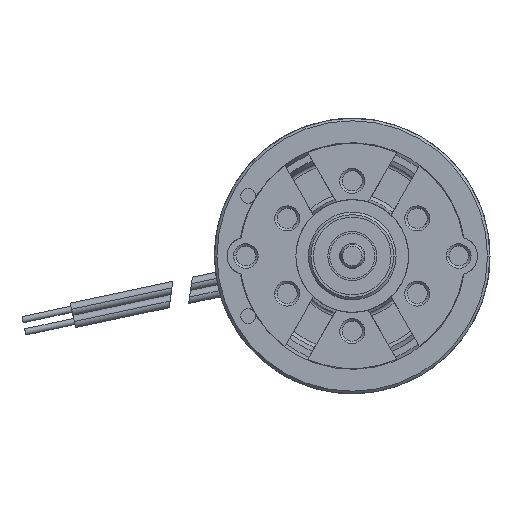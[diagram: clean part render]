
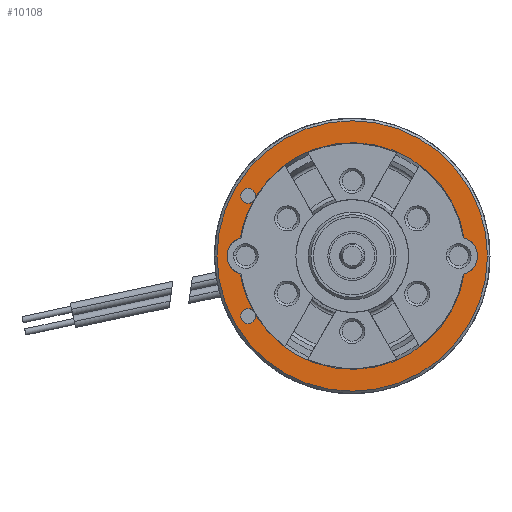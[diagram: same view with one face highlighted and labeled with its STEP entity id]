
A CAD part, left-side view. The second image highlights one B-rep face of the part: STEP entity #10108.
In plain terms, the highlighted planar face has unit normal (-1, 0, 0).
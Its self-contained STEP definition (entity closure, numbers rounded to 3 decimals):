
#2657=CARTESIAN_POINT('',(-29.2,0.,0.));
#2658=DIRECTION('',(-1.,0.,0.));
#2659=DIRECTION('',(0.,1.,0.));
#2660=AXIS2_PLACEMENT_3D('',#2657,#2658,#2659);
#2665=CARTESIAN_POINT('',(-29.2,0.,0.));
#2666=DIRECTION('',(-1.,0.,0.));
#2667=DIRECTION('',(0.,-1.,0.));
#2668=AXIS2_PLACEMENT_3D('',#2665,#2666,#2667);
#2673=CARTESIAN_POINT('',(-29.2,8.31,-4.8));
#2674=DIRECTION('',(-1.,0.,0.));
#2675=DIRECTION('',(0.,1.,0.));
#2676=AXIS2_PLACEMENT_3D('',#2673,#2674,#2675);
#2681=CARTESIAN_POINT('',(-29.2,8.31,-4.8));
#2682=DIRECTION('',(-1.,0.,0.));
#2683=DIRECTION('',(0.,-1.,0.));
#2684=AXIS2_PLACEMENT_3D('',#2681,#2682,#2683);
#2689=CARTESIAN_POINT('',(-29.2,0.,0.));
#2690=DIRECTION('',(1.,0.,0.));
#2691=DIRECTION('',(0.,-0.987,-0.159));
#2692=AXIS2_PLACEMENT_3D('',#2689,#2690,#2691);
#2697=CARTESIAN_POINT('',(-29.2,-8.5,0.));
#2698=DIRECTION('',(-1.,0.,0.));
#2699=DIRECTION('',(0.,-0.29,-0.957));
#2700=AXIS2_PLACEMENT_3D('',#2697,#2698,#2699);
#2705=CARTESIAN_POINT('',(-29.2,0.,0.));
#2706=DIRECTION('',(1.,0.,0.));
#2707=DIRECTION('',(0.,0.852,0.523));
#2708=AXIS2_PLACEMENT_3D('',#2705,#2706,#2707);
#2713=CARTESIAN_POINT('',(-29.2,8.31,4.8));
#2714=DIRECTION('',(1.,0.,0.));
#2715=DIRECTION('',(0.,-1.,0.));
#2716=AXIS2_PLACEMENT_3D('',#2713,#2714,#2715);
#2721=CARTESIAN_POINT('',(-29.2,8.31,4.8));
#2722=DIRECTION('',(1.,0.,0.));
#2723=DIRECTION('',(0.,1.,0.));
#2724=AXIS2_PLACEMENT_3D('',#2721,#2722,#2723);
#2729=CARTESIAN_POINT('',(-29.2,8.31,4.8));
#2730=DIRECTION('',(1.,0.,0.));
#2731=DIRECTION('',(0.,-0.593,-0.805));
#2732=AXIS2_PLACEMENT_3D('',#2729,#2730,#2731);
#2737=CARTESIAN_POINT('',(-29.2,0.,0.));
#2738=DIRECTION('',(1.,0.,0.));
#2739=DIRECTION('',(0.,0.987,0.159));
#2740=AXIS2_PLACEMENT_3D('',#2737,#2738,#2739);
#2745=CARTESIAN_POINT('',(-29.2,8.5,0.));
#2746=DIRECTION('',(-1.,0.,0.));
#2747=DIRECTION('',(0.,0.29,0.957));
#2748=AXIS2_PLACEMENT_3D('',#2745,#2746,#2747);
#2753=CARTESIAN_POINT('',(-29.2,0.,0.));
#2754=DIRECTION('',(1.,0.,0.));
#2755=DIRECTION('',(0.,0.879,-0.477));
#2756=AXIS2_PLACEMENT_3D('',#2753,#2754,#2755);
#2761=CARTESIAN_POINT('',(-29.2,8.31,-4.8));
#2762=DIRECTION('',(-1.,0.,0.));
#2763=DIRECTION('',(0.,-0.593,0.805));
#2764=AXIS2_PLACEMENT_3D('',#2761,#2762,#2763);
#7729=CARTESIAN_POINT('',(-29.2,8.91,4.8));
#7730=CARTESIAN_POINT('',(-29.2,7.71,4.8));
#7731=VERTEX_POINT('',#7729);
#7732=VERTEX_POINT('',#7730);
#7733=CARTESIAN_POINT('',(-29.2,7.714,4.733));
#7734=VERTEX_POINT('',#7733);
#7739=CARTESIAN_POINT('',(-29.2,8.91,-4.8));
#7740=VERTEX_POINT('',#7739);
#7741=CARTESIAN_POINT('',(-29.2,7.71,-4.8));
#7742=VERTEX_POINT('',#7741);
#7743=CARTESIAN_POINT('',(-29.2,7.714,-4.733));
#7744=VERTEX_POINT('',#7743);
#7785=CARTESIAN_POINT('',(-29.2,7.954,4.317));
#7786=VERTEX_POINT('',#7785);
#7787=CARTESIAN_POINT('',(-29.2,7.954,-4.317));
#7788=VERTEX_POINT('',#7787);
#7789=CARTESIAN_POINT('',(-29.2,-8.935,-1.435));
#7790=CARTESIAN_POINT('',(-29.2,-8.935,1.435));
#7791=VERTEX_POINT('',#7789);
#7792=VERTEX_POINT('',#7790);
#7793=CARTESIAN_POINT('',(-29.2,8.935,1.435));
#7794=CARTESIAN_POINT('',(-29.2,8.935,-1.435));
#7795=VERTEX_POINT('',#7793);
#7796=VERTEX_POINT('',#7794);
#7835=CARTESIAN_POINT('',(-29.2,10.8,0.));
#7836=CARTESIAN_POINT('',(-29.2,-10.8,0.));
#7837=VERTEX_POINT('',#7835);
#7838=VERTEX_POINT('',#7836);
#10072=CARTESIAN_POINT('',(-29.2,0.,0.));
#10073=DIRECTION('',(-1.,0.,0.));
#10074=DIRECTION('',(0.,1.,0.));
#10075=AXIS2_PLACEMENT_3D('',#10072,#10073,#10074);
#10076=PLANE('',#10075);
#10078=ORIENTED_EDGE('',*,*,#10077,.F.);
#10079=ORIENTED_EDGE('',*,*,#10055,.F.);
#10080=EDGE_LOOP('',(#10078,#10079));
#10081=FACE_OUTER_BOUND('',#10080,.F.);
#10083=ORIENTED_EDGE('',*,*,#10082,.T.);
#10085=ORIENTED_EDGE('',*,*,#10084,.T.);
#10087=ORIENTED_EDGE('',*,*,#10086,.F.);
#10089=ORIENTED_EDGE('',*,*,#10088,.T.);
#10091=ORIENTED_EDGE('',*,*,#10090,.F.);
#10093=ORIENTED_EDGE('',*,*,#10092,.F.);
#10095=ORIENTED_EDGE('',*,*,#10094,.F.);
#10097=ORIENTED_EDGE('',*,*,#10096,.F.);
#10099=ORIENTED_EDGE('',*,*,#10098,.F.);
#10101=ORIENTED_EDGE('',*,*,#10100,.T.);
#10103=ORIENTED_EDGE('',*,*,#10102,.F.);
#10105=ORIENTED_EDGE('',*,*,#10104,.T.);
#10106=EDGE_LOOP('',(#10083,#10085,#10087,#10089,#10091,#10093,#10095,#10097,
#10099,#10101,#10103,#10105));
#10107=FACE_BOUND('',#10106,.F.);
#10108=ADVANCED_FACE('',(#10081,#10107),#10076,.T.);
#2661=CIRCLE('',#2660,10.8);
#2669=CIRCLE('',#2668,10.8);
#2677=CIRCLE('',#2676,0.6);
#2685=CIRCLE('',#2684,0.6);
#2693=CIRCLE('',#2692,9.05);
#2701=CIRCLE('',#2700,1.5);
#2709=CIRCLE('',#2708,9.05);
#2717=CIRCLE('',#2716,0.6);
#2725=CIRCLE('',#2724,0.6);
#2733=CIRCLE('',#2732,0.6);
#2741=CIRCLE('',#2740,9.05);
#2749=CIRCLE('',#2748,1.5);
#2757=CIRCLE('',#2756,9.05);
#2765=CIRCLE('',#2764,0.6);
#10055=EDGE_CURVE('',#7838,#7837,#2669,.T.);
#10077=EDGE_CURVE('',#7837,#7838,#2661,.T.);
#10082=EDGE_CURVE('',#7740,#7742,#2677,.T.);
#10084=EDGE_CURVE('',#7742,#7744,#2685,.T.);
#10086=EDGE_CURVE('',#7791,#7744,#2693,.T.);
#10088=EDGE_CURVE('',#7791,#7792,#2701,.T.);
#10090=EDGE_CURVE('',#7734,#7792,#2709,.T.);
#10092=EDGE_CURVE('',#7732,#7734,#2717,.T.);
#10094=EDGE_CURVE('',#7731,#7732,#2725,.T.);
#10096=EDGE_CURVE('',#7786,#7731,#2733,.T.);
#10098=EDGE_CURVE('',#7795,#7786,#2741,.T.);
#10100=EDGE_CURVE('',#7795,#7796,#2749,.T.);
#10102=EDGE_CURVE('',#7788,#7796,#2757,.T.);
#10104=EDGE_CURVE('',#7788,#7740,#2765,.T.);
